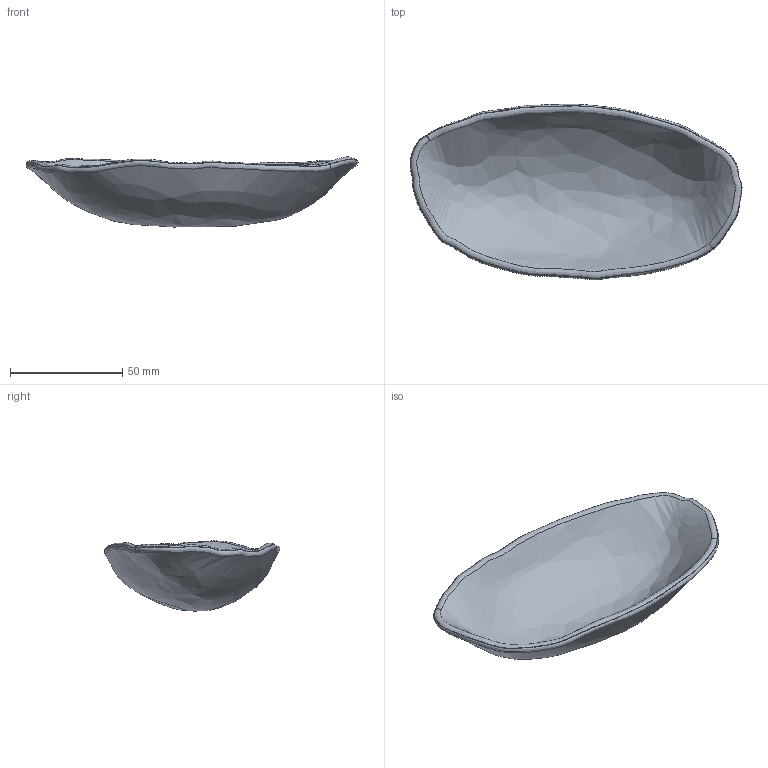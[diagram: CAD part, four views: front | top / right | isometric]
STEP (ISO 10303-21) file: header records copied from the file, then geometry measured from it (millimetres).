
FILE_DESCRIPTION(/* description */ (''),/* implementation_level */ '2;1');
FILE_NAME(/* name */ 'Native Oval Tray Petit',/* time_stamp */ '2024-05-22T16:57:35+02:00',/* author */ (''),/* organization */ (''),/* preprocessor_version */ 'ST-DEVELOPER v16.5',/* originating_system */ 'Rhino 7.37',/* authorisation */ '');
FILE_SCHEMA (('CONFIG_CONTROL_DESIGN'));
Length unit declared in the file: millimetre
Products named in the file (1): Document
Bounding box: 148.17 x 78.39 x 31.34 mm (x, y, z)
Volume: 44100.7 mm3; surface area: 24702.8 mm2
Topology: 1 solids, 1 shells, 8 faces, 14 edges, 8 vertices
Faces by surface type: bspline 8
Entity records: 18954 total; most frequent: CARTESIAN_POINT 18680, B_SPLINE_CURVE_WITH_KNOTS 34, ORIENTED_EDGE 28, PCURVE 28, DEFINITIONAL_REPRESENTATION 28, SURFACE_CURVE 14, EDGE_CURVE 14, ADVANCED_FACE 8
